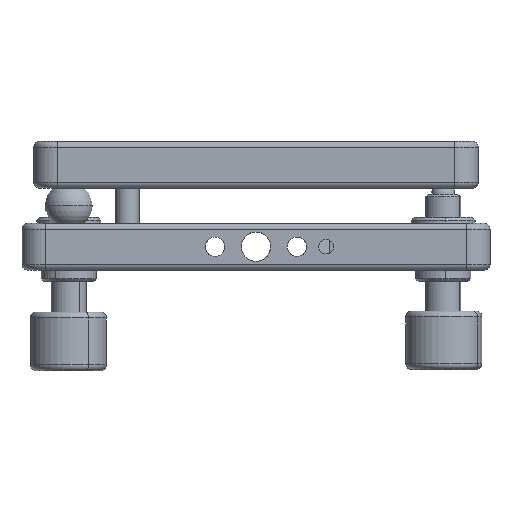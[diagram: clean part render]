
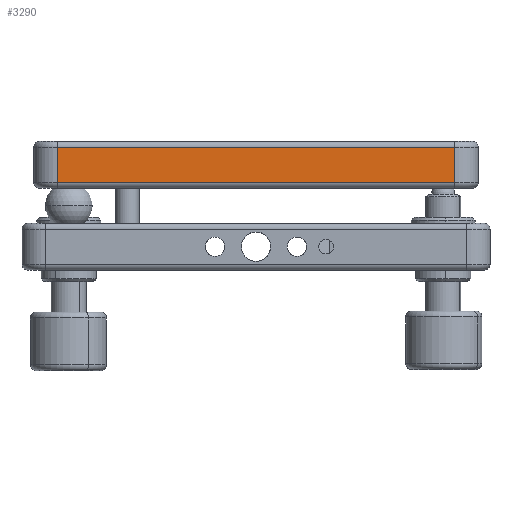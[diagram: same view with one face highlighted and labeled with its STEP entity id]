
A CAD part, front view. The second image highlights one B-rep face of the part: STEP entity #3290.
In plain terms, the highlighted planar face has unit normal (0, -1, 0).
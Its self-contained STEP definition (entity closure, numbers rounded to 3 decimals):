
#10 = CARTESIAN_POINT ( 'NONE',  ( -34., -38., 18. ) ) ;
#706 = EDGE_CURVE ( 'NONE', #800, #7110, #6052, .T. ) ;
#800 = VERTEX_POINT ( 'NONE', #3850 ) ;
#1179 = CARTESIAN_POINT ( 'NONE',  ( 34., -38., 11. ) ) ;
#1432 = VECTOR ( 'NONE', #2537, 1000. ) ;
#1613 = LINE ( 'NONE', #7149, #1432 ) ;
#1753 = VERTEX_POINT ( 'NONE', #1179 ) ;
#1830 = LINE ( 'NONE', #6118, #2391 ) ;
#1940 = VECTOR ( 'NONE', #5017, 1000. ) ;
#2090 = LINE ( 'NONE', #4981, #1940 ) ;
#2191 = FACE_OUTER_BOUND ( 'NONE', #2520, .T. ) ;
#2391 = VECTOR ( 'NONE', #6125, 1000. ) ;
#2451 = VERTEX_POINT ( 'NONE', #3702 ) ;
#2520 = EDGE_LOOP ( 'NONE', ( #5710, #3608, #6145, #5866 ) ) ;
#2537 = DIRECTION ( 'NONE',  ( -1., 0., 0. ) ) ;
#3003 = EDGE_CURVE ( 'NONE', #7110, #1753, #1830, .T. ) ;
#3085 = EDGE_CURVE ( 'NONE', #1753, #2451, #2090, .T. ) ;
#3282 = DIRECTION ( 'NONE',  ( 0., 0., -1. ) ) ;
#3290 = ADVANCED_FACE ( 'NONE', ( #2191 ), #5721, .F. ) ;
#3608 = ORIENTED_EDGE ( 'NONE', *, *, #7747, .T. ) ;
#3702 = CARTESIAN_POINT ( 'NONE',  ( 34., -38., 17. ) ) ;
#3850 = CARTESIAN_POINT ( 'NONE',  ( -34., -38., 17. ) ) ;
#4230 = CARTESIAN_POINT ( 'NONE',  ( -34., -38., 11. ) ) ;
#4981 = CARTESIAN_POINT ( 'NONE',  ( 34., -38., 18. ) ) ;
#5017 = DIRECTION ( 'NONE',  ( 0., 0., 1. ) ) ;
#5630 = CARTESIAN_POINT ( 'NONE',  ( -38., -38., 18. ) ) ;
#5710 = ORIENTED_EDGE ( 'NONE', *, *, #3085, .T. ) ;
#5721 = PLANE ( 'NONE',  #6858 ) ;
#5730 = DIRECTION ( 'NONE',  ( 0., 1., 0. ) ) ;
#5740 = DIRECTION ( 'NONE',  ( 0., 0., 1. ) ) ;
#5866 = ORIENTED_EDGE ( 'NONE', *, *, #3003, .T. ) ;
#6023 = VECTOR ( 'NONE', #3282, 1000. ) ;
#6052 = LINE ( 'NONE', #10, #6023 ) ;
#6118 = CARTESIAN_POINT ( 'NONE',  ( -38., -38., 11. ) ) ;
#6125 = DIRECTION ( 'NONE',  ( 1., 0., 0. ) ) ;
#6145 = ORIENTED_EDGE ( 'NONE', *, *, #706, .T. ) ;
#6858 = AXIS2_PLACEMENT_3D ( 'NONE', #5630, #5730, #5740 ) ;
#7110 = VERTEX_POINT ( 'NONE', #4230 ) ;
#7149 = CARTESIAN_POINT ( 'NONE',  ( -34., -38., 17. ) ) ;
#7747 = EDGE_CURVE ( 'NONE', #2451, #800, #1613, .T. ) ;
